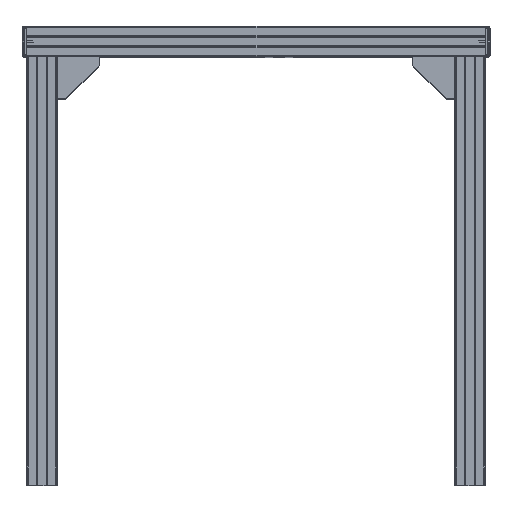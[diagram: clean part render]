
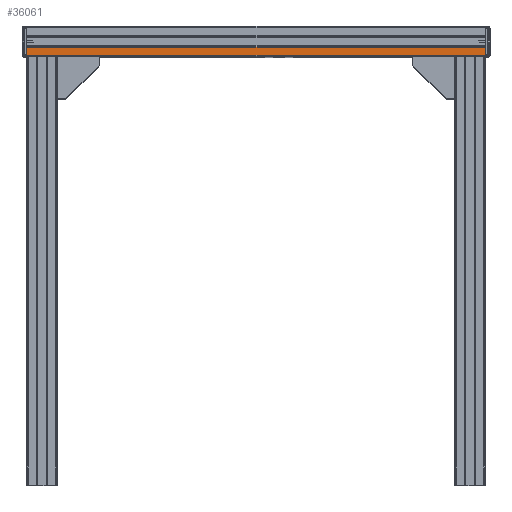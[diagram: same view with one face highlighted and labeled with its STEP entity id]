
A CAD part, top view. The second image highlights one B-rep face of the part: STEP entity #36061.
In plain terms, the highlighted planar face has unit normal (0, 0, 1) as drawn and (0, -1, 0) by its records, which use the part's own axes.
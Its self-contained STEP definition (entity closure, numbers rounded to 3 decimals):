
#29356=CARTESIAN_POINT(' ',(-3.8,-10.,0.));
#29357=VERTEX_POINT(' ',#29356);
#29371=CARTESIAN_POINT(' ',(-3.8,-10.,-300.));
#29376=DIRECTION(' ',(0.,0.,1.));
#29381=VECTOR(' ',#29376,1.);
#29386=LINE('',#29371,#29381);
#29391=CARTESIAN_POINT(' ',(-3.8,-10.,-300.));
#29392=VERTEX_POINT(' ',#29391);
#29396=EDGE_CURVE(' ',#29392,#29357,#29386,.T.);
#33006=CARTESIAN_POINT(' ',(-9.,-10.,0.));
#33007=VERTEX_POINT(' ',#33006);
#33021=CARTESIAN_POINT(' ',(-9.,-10.,0.));
#33026=DIRECTION(' ',(1.,0.,0.));
#33031=VECTOR(' ',#33026,1.);
#33036=LINE('',#33021,#33031);
#33041=EDGE_CURVE(' ',#33007,#29357,#33036,.T.);
#35951=DIRECTION(' ',(0.,-1.,0.));
#35956=CARTESIAN_POINT(' ',(-9.52,-10.,30.));
#35961=DIRECTION(' ',(0.,0.,-1.));
#35966=AXIS2_PLACEMENT_3D(' ',#35956,#35951,#35961);
#35971=PLANE('',#35966);
#35976=CARTESIAN_POINT(' ',(-9.,-10.,-300.));
#35981=DIRECTION(' ',(0.,0.,1.));
#35986=VECTOR(' ',#35981,1.);
#35991=LINE('',#35976,#35986);
#35996=CARTESIAN_POINT(' ',(-9.,-10.,-300.));
#35997=VERTEX_POINT(' ',#35996);
#36001=EDGE_CURVE(' ',#35997,#33007,#35991,.T.);
#36006=ORIENTED_EDGE(' ',*,*,#36001,.F.);
#36011=CARTESIAN_POINT(' ',(-3.8,-10.,-300.));
#36016=DIRECTION(' ',(-1.,0.,0.));
#36021=VECTOR(' ',#36016,1.);
#36026=LINE('',#36011,#36021);
#36031=EDGE_CURVE(' ',#29392,#35997,#36026,.T.);
#36036=ORIENTED_EDGE(' ',*,*,#36031,.F.);
#36041=ORIENTED_EDGE(' ',*,*,#29396,.T.);
#36046=ORIENTED_EDGE(' ',*,*,#33041,.F.);
#36051=EDGE_LOOP(' ',(#36006,#36036,#36041,#36046));
#36056=FACE_OUTER_BOUND(' ',#36051,.T.);
#36061=ADVANCED_FACE('',(#36056),#35971,.T.);
